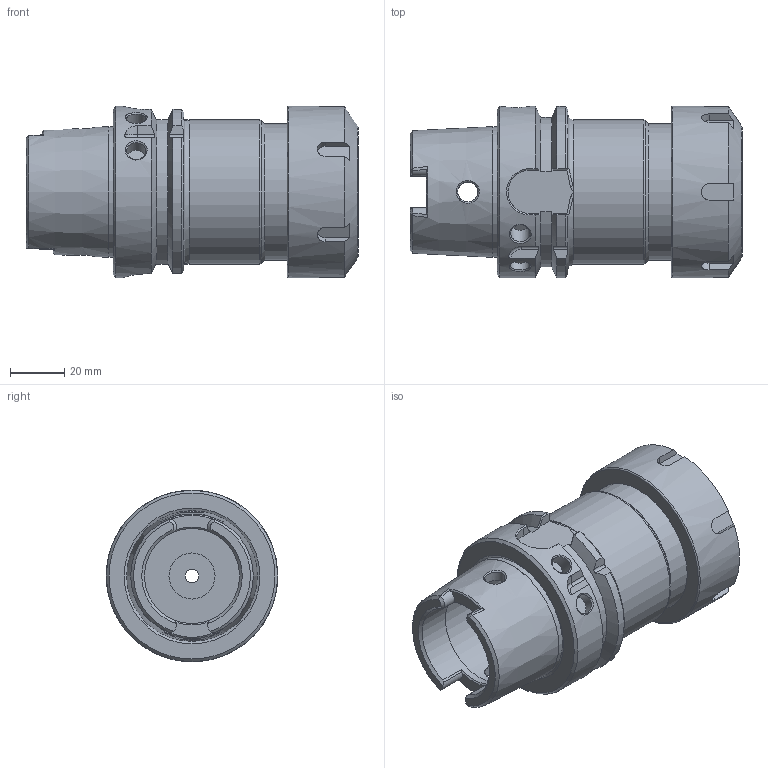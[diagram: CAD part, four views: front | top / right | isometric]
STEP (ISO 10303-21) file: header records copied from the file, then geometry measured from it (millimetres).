
FILE_DESCRIPTION(/* description */ (''),/* implementation_level */ '2;1');
FILE_NAME(/* name */ 'HSK63A-ER40-90.stp',/* time_stamp */ '2025-10-06T11:17:08+03:00',/* author */ ('User'),/* organization */ (''),/* preprocessor_version */ 'ST-DEVELOPER v19.2',/* originating_system */ 'Autodesk Inventor 2024',/* authorisation */ '');
FILE_SCHEMA (('AUTOMOTIVE_DESIGN { 1 0 10303 214 3 1 1 }'));
Length unit declared in the file: millimetre
Products named in the file (3): HSK63A-ER40-75; ER25-M; HSK63A-ER40-75_1
Assembly tree (2 placements, depth 2):
  HSK63A-ER40-75
    ER25-M
    HSK63A-ER40-75_1
Bounding box: 122 x 63 x 63 mm (x, y, z)
Volume: 180338.7 mm3; surface area: 47485 mm2
Topology: 2 solids, 2 shells, 186 faces, 517 edges, 342 vertices
Faces by surface type: plane 71, bspline 41, cylinder 37, cone 30, torus 7
Full cylindrical faces by diameter (mm): 5 x1, 7 x2, 10 x1, 16.917 x1, 33.568 x1, 34.96 x2, 38.96 x1, 40 x1, 47.9 x1, 48.5 x2, 50 x1, 53 x1, 63 x2
Entity records: 7960 total; most frequent: CARTESIAN_POINT 3562, ORIENTED_EDGE 1026, DIRECTION 702, EDGE_CURVE 513, VERTEX_POINT 342, AXIS2_PLACEMENT_3D 280, EDGE_LOOP 205, B_SPLINE_CURVE_WITH_KNOTS 191
